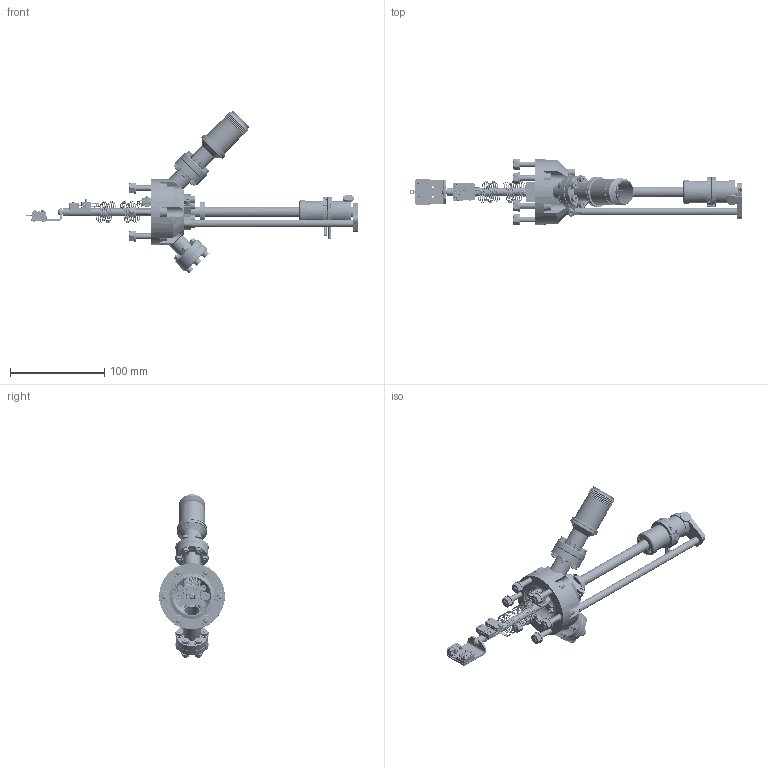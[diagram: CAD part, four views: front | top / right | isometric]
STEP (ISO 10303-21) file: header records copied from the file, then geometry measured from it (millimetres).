
FILE_DESCRIPTION(('Confidential','CAx-IF Rec.Pracs.--- Model Styling and Organization---1.2---2011-12-15','CAx-IF Rec.Pracs.--- Geometric and Assembly Validation Properties ---3.1---2011-10-19'),'2;1');
FILE_NAME('W:\KONSTRUKTION\PRODUCTS\HS\HSAS\HSASOM\HSASOM40\HSASOM40(DCMD)\HSASOM40(DCMD)_Rev_F.stp','2026-05-19T13:56:37+00:00',('none'),('Ferrovac AG'),'CATIA Version 5 Release 21 SP 6 (IN-10)','CATIA V5 STEP AP214 Edition 3','PROPERTY OF FERROVAC AG');
FILE_SCHEMA(('AUTOMOTIVE_DESIGN { 1 0 10303 214 3 1 1 1 }'));
Products named in the file (1): HSASOM40(DCMD)_AllCATPart
Bounding box: 351.45 x 70.7 x 173.08 mm (x, y, z)
Volume: 200128.1 mm3; surface area: 124562.2 mm2
Topology: 2 solids, 52 shells, 5428 faces, 14596 edges, 9529 vertices
Faces by surface type: cylinder 2023, plane 1973, cone 753, torus 583, bspline 92, extrusion 4
Entity records: 188773 total; most frequent: CARTESIAN_POINT 59613, ORIENTED_EDGE 28940, DIRECTION 19833, EDGE_CURVE 14470, AXIS2_PLACEMENT_3D 9627, VERTEX_POINT 9503, EDGE_LOOP 6069, VECTOR 5857
